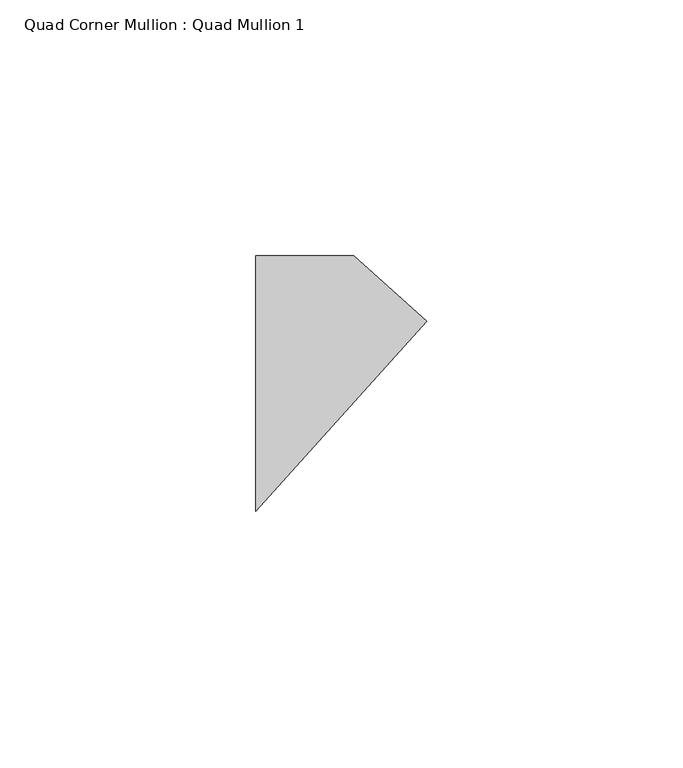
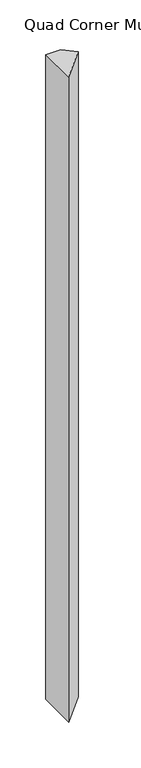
"""IFC4 building model written with IfcOpenShell, lengths in millimetres: member geometry, Quad Corner Mullion : Quad Mullion 1."""

from ifc_helpers import new_model, si_unit, frame, origin, place, context, project, spatial, polyline, outline, extrude, source, transform, mapped, element, save


def quad_corner_mullion_quad_mullion_1_78331908(model_context):
    return source(origin(), model_context, "Body", "SweptSolid", [
        extrude(outline(polyline([(23.8599294, 12.1572413), (-9.5966009, -25.0), (-9.5966009, 25.0), (9.5966009, 25.0), (23.8599294, 12.1572413)])), frame((0.0, 0.0, -860.0), z_axis=(0.0, 0.0, 1.0), x_axis=(1.0, 0.0, 0.0)), (0.0, 0.0, 1.0), 860.0),
    ])


if __name__ == "__main__":
    model = new_model("IFC4")
    model_context = context("Model", 3, world=origin())
    ifc_project = project(units=[si_unit("LENGTHUNIT", "METRE", prefix="MILLI")], contexts=[model_context])
    site = spatial("IfcSite", under=ifc_project)
    building = spatial("IfcBuilding", under=site)
    placement = place(None, origin())
    quad_corner_mullion_quad_mullion_1_shape = quad_corner_mullion_quad_mullion_1_78331908(model_context)
    element("IfcMember", 1, ObjectType="Quad Corner Mullion : Quad Mullion 1", at=placement, inside=building, context=model_context, shape_type="MappedRepresentation", body=[
        mapped(quad_corner_mullion_quad_mullion_1_shape, transform((0.0, 0.0, 0.0), x_axis=(1.0, 0.0, 0.0), y_axis=(0.0, 1.0, 0.0), z_axis=(0.0, 0.0, 1.0))),
    ])
    save(model, "model.ifc")
